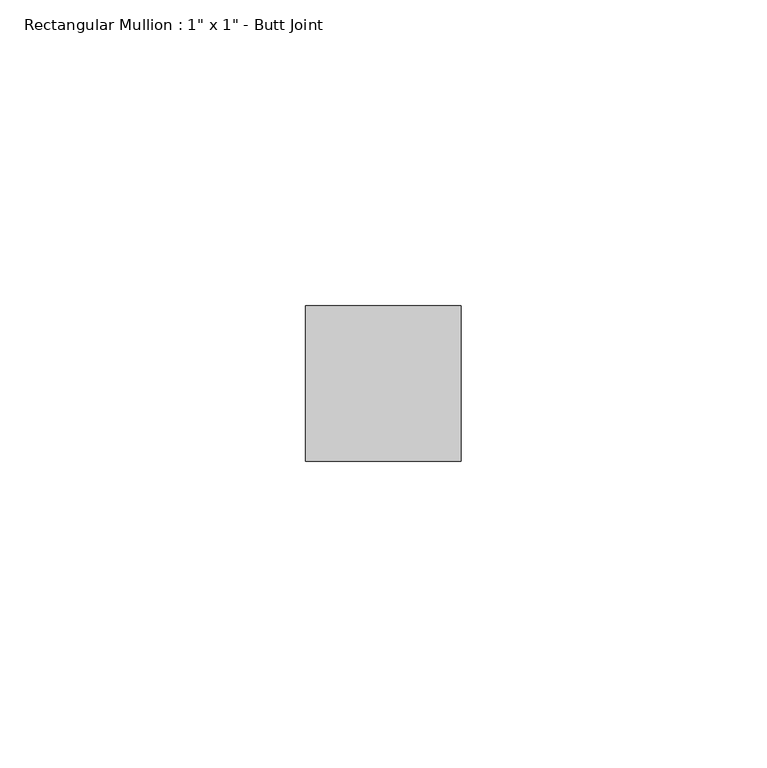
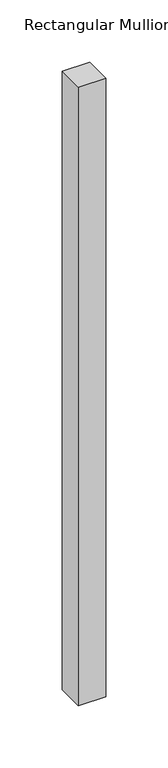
"""IFC4 building model written with IfcOpenShell, lengths in millimetres: member geometry."""

from ifc_helpers import new_model, si_unit, frame, origin, place, context, project, spatial, polyline, outline, extrude, source, transform, mapped, element, save


def member_f013a865(model_context):
    return source(origin(), model_context, "Body", "SweptSolid", [
        extrude(outline(polyline([(12.7, 12.7), (12.7, -12.7), (-12.7, -12.7), (-12.7, 12.7), (12.7, 12.7)])), frame((0.0, 0.0, -605.9998817), z_axis=(0.0, 0.0, 1.0), x_axis=(1.0, 0.0, 0.0)), (0.0, 0.0, 1.0), 605.9998817),
    ])


if __name__ == "__main__":
    model = new_model("IFC4")
    model_context = context("Model", 3, world=origin())
    ifc_project = project(units=[si_unit("LENGTHUNIT", "METRE", prefix="MILLI")], contexts=[model_context])
    site = spatial("IfcSite", under=ifc_project)
    building = spatial("IfcBuilding", under=site)
    placement = place(None, origin())
    member_shape = member_f013a865(model_context)
    element("IfcMember", 1, ObjectType="Rectangular Mullion : 1\" x 1\" - Butt Joint", at=placement, inside=building, context=model_context, shape_type="MappedRepresentation", body=[
        mapped(member_shape, transform((0.0, 0.0, 0.0), x_axis=(1.0, 0.0, 0.0), y_axis=(0.0, 1.0, 0.0), z_axis=(0.0, 0.0, 1.0))),
    ])
    save(model, "model.ifc")
